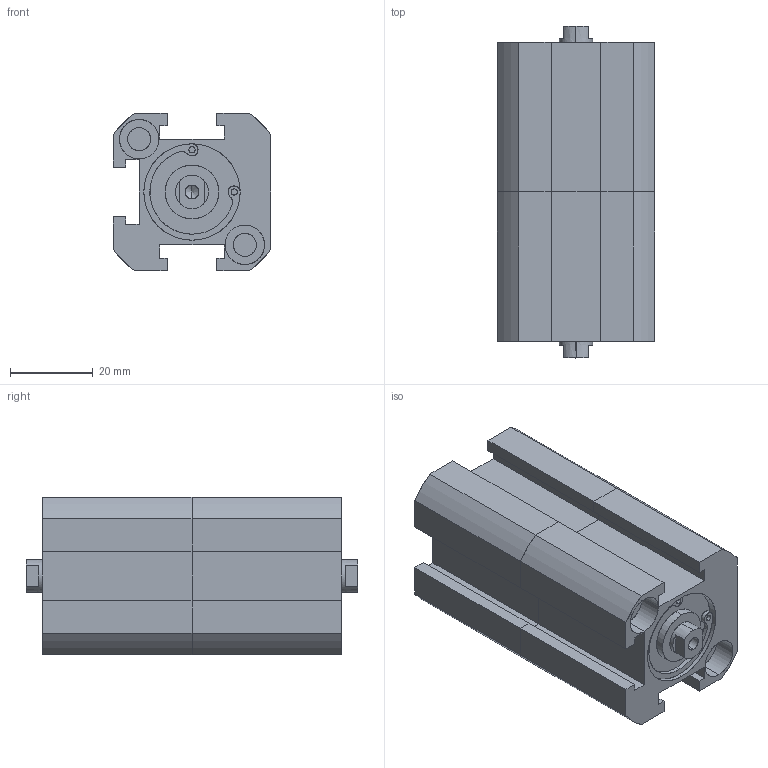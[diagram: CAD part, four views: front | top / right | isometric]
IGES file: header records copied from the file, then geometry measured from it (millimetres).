
Start section: SolidWorks IGES file using analytic representation for surfaces
Global section: file name: C:\Users\Toshiba\Desktop\XGD7-20-10-10.IGS; native system: SolidWorks 2014; preprocessor: SolidWorks 2014; author: Toshiba; date: 160805.094232; units: millimetre
Bounding box: 38 x 80 x 38 mm (x, y, z)
Surface area: 23200.2 mm2 (no closed solid volume)
Topology: 0 solids, 0 shells, 178 faces, 2518 edges, 2506 vertices
Faces by surface type: revolution 90, bspline 88
